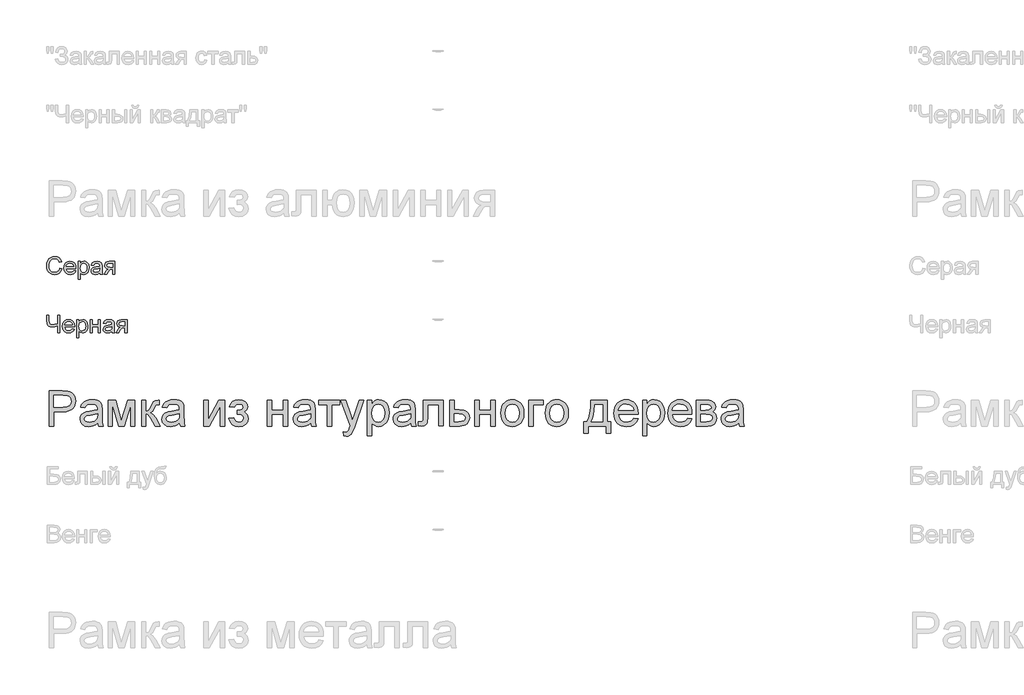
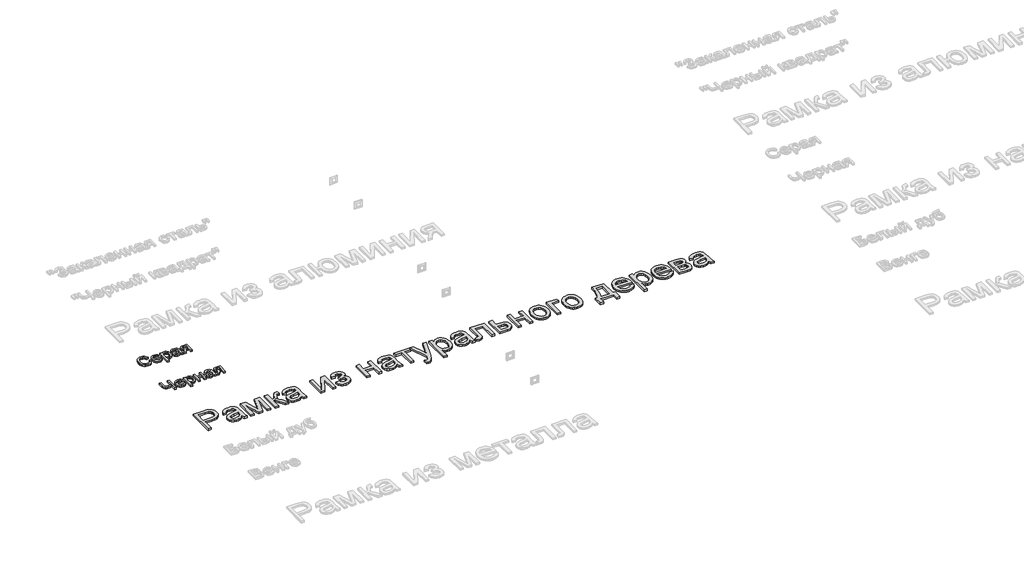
# One storey, part 111 of 168: 3 proxies.
"""IFC4 building model written with IfcOpenShell, lengths in millimetres."""

from ifc_helpers import new_model, si_unit, origin, origin_with_axes, place, context, project, spatial, polyline, outline, extrude, element, save

model = new_model("IFC4")

# Units and contexts
model_context = context("Model", 3, world=origin())
ifc_project = project(units=[si_unit("LENGTHUNIT", "METRE", prefix="MILLI")], contexts=[model_context])

# Site, building, storey
site = spatial("IfcSite", under=ifc_project)
building = spatial("IfcBuilding", under=site)
storey = spatial("IfcBuildingStorey", under=building, Name="Этаж 01", Elevation=0.0)

# Proxies
placement = place(None, origin())
element("IfcBuildingElementProxy", 1, Name="300 мм Arial 2", ObjectType="300 мм Arial 2", at=placement, inside=storey, context=model_context, shape_type="SweptSolid", body=[
    extrude(outline(polyline([(32899.0945017, -10648.4056816), (32899.0945017, -10347.0367511), (33010.7834754, -10347.0367511), (33055.8122316, -10349.9062307), (33075.8893915, -10355.2681108), (33092.4164901, -10363.9961111), (33105.7246213, -10376.4857048), (33116.1448788, -10393.1323651), (33122.8771193, -10412.7680666), (33125.1211995, -10434.224784), (33123.6059855, -10452.7246498), (33119.0603436, -10469.7437906), (33111.4842738, -10485.2822064), (33100.877776, -10499.3398971), (33086.3165468, -10510.9925593), (33066.8762826, -10519.3158895), (33042.5569835, -10524.3098875), (33013.3586494, -10525.9745536), (32936.765618, -10525.9745536), (32936.765618, -10648.4056816), (32899.0945017, -10648.4056816)]), holes=[polyline([(32936.765618, -10488.3034373), (33015.5659413, -10488.3034373), (33048.9696265, -10484.8453465), (33071.0425462, -10474.4710742), (33083.3481989, -10457.824414), (33087.4500832, -10435.5491592), (33085.0312591, -10418.6265874), (33077.7747867, -10404.352766), (33066.581977, -10393.6106117), (33052.3541408, -10387.2830414), (33014.6830245, -10384.7078674), (32936.765618, -10384.7078674), (32936.765618, -10488.3034373)])]), origin_with_axes(), (0.0, 0.0, 1.0), 20.0),
    extrude(outline(polyline([(33313.476781, -10620.1523443), (33295.4781544, -10635.584994), (33276.9460989, -10645.6833548), (33257.4575502, -10651.256767), (33236.589444, -10653.1145711), (33205.1079423, -10648.6448049), (33181.8853914, -10635.2355061), (33167.5655847, -10614.8732377), (33162.7923158, -10589.5445623), (33164.5949376, -10573.9279716), (33170.0028029, -10559.7461207), (33178.3445271, -10547.6060149), (33188.9487257, -10538.1146594), (33215.3258647, -10525.7538244), (33247.9202095, -10520.0884417), (33286.4374544, -10514.1287533), (33313.2560518, -10507.1389954), (33313.476781, -10498.7512859), (33310.883213, -10481.9390788), (33303.1025088, -10470.9394071), (33285.7016904, -10462.7724268), (33261.4582669, -10460.0501), (33239.0174652, -10461.8619189), (33223.3456922, -10467.2973753), (33212.6587202, -10477.3497509), (33205.1723216, -10493.0123268), (33167.5012053, -10488.3034373), (33174.0403078, -10467.7020455), (33183.7983777, -10451.5152378), (33197.685923, -10439.1360086), (33216.6134517, -10429.9573528), (33239.7624262, -10424.273576), (33266.3143092, -10422.3789837), (33291.7809404, -10424.0528468), (33311.9684648, -10429.074436), (33327.1895824, -10436.625214), (33337.7569927, -10445.8866432), (33344.7651447, -10457.3369703), (33349.3084874, -10471.4544419), (33351.1478973, -10504.4166687), (33351.1478973, -10551.2848348), (33353.0608837, -10616.7310418), (33360.5656764, -10648.4056816), (33322.8945601, -10648.4056816), (33313.476781, -10620.1523443)]), holes=[polyline([(33313.476781, -10544.8101117), (33252.7026754, -10556.3616064), (33220.2922716, -10562.4684475), (33205.61378, -10572.4012614), (33200.4634321, -10586.895812), (33203.2685323, -10598.0978187), (33211.683833, -10607.2764745), (33225.525393, -10613.4017097), (33244.6092715, -10615.4434548), (33264.8427813, -10613.1901776), (33282.7218462, -10606.4303459), (33297.2163968, -10596.4699409), (33307.2963635, -10584.6149436), (33311.7661297, -10572.4012614), (33313.2560518, -10555.4786896), (33313.476781, -10544.8101117)])]), origin_with_axes(), (0.0, 0.0, 1.0), 20.0),
    extrude(outline(polyline([(33402.9456823, -10427.0878733), (33467.7664898, -10427.0878733), (33517.7248647, -10604.2598421), (33571.5827888, -10427.0878733), (33633.6812696, -10427.0878733), (33633.6812696, -10648.4056816), (33596.0101533, -10648.4056816), (33596.0101533, -10470.2036431), (33541.8579236, -10648.4056816), (33492.4145835, -10648.4056816), (33440.6167986, -10461.6687808), (33440.6167986, -10648.4056816), (33402.9456823, -10648.4056816), (33402.9456823, -10427.0878733)])), origin_with_axes(), (0.0, 0.0, 1.0), 20.0),
    extrude(outline(polyline([(33690.1879441, -10427.0878733), (33727.8590604, -10427.0878733), (33727.8590604, -10521.265664), (33743.1813455, -10519.5734069), (33753.0957653, -10514.4966353), (33761.8697508, -10501.2528835), (33773.7707334, -10475.0596854), (33790.9508226, -10441.0306009), (33806.1075608, -10429.9573528), (33833.6619222, -10427.0878733), (33840.8724093, -10427.0878733), (33840.8724093, -10464.9797188), (33830.7188662, -10464.7589896), (33812.3247665, -10468.7321151), (33799.3753203, -10493.5273616), (33784.1817939, -10520.345959), (33762.8814263, -10533.4793463), (33774.8191971, -10538.7814455), (33786.6466032, -10548.1394438), (33809.9703217, -10579.0231373), (33850.2901884, -10648.4056816), (33807.4687241, -10648.4056816), (33767.9581979, -10580.4946653), (33748.0925701, -10551.7630814), (33738.8035497, -10546.5483542), (33727.8590604, -10544.8101117), (33727.8590604, -10648.4056816), (33690.1879441, -10648.4056816), (33690.1879441, -10427.0878733)])), origin_with_axes(), (0.0, 0.0, 1.0), 20.0),
    extrude(outline(polyline([(34015.1013222, -10620.1523443), (33997.1026956, -10635.584994), (33978.5706401, -10645.6833548), (33959.0820914, -10651.256767), (33938.2139852, -10653.1145711), (33906.7324835, -10648.6448049), (33883.5099326, -10635.2355061), (33869.1901259, -10614.8732377), (33864.416857, -10589.5445623), (33866.2194788, -10573.9279716), (33871.6273441, -10559.7461207), (33879.9690683, -10547.6060149), (33890.5732669, -10538.1146594), (33916.9504059, -10525.7538244), (33949.5447507, -10520.0884417), (33988.0619956, -10514.1287533), (34014.880593, -10507.1389954), (34015.1013222, -10498.7512859), (34012.5077542, -10481.9390788), (34004.72705, -10470.9394071), (33987.3262316, -10462.7724268), (33963.0828081, -10460.0501), (33940.6420064, -10461.8619189), (33924.9702334, -10467.2973753), (33914.2832614, -10477.3497509), (33906.7968628, -10493.0123268), (33869.1257465, -10488.3034373), (33875.664849, -10467.7020455), (33885.4229189, -10451.5152378), (33899.3104642, -10439.1360086), (33918.2379929, -10429.9573528), (33941.3869674, -10424.273576), (33967.9388504, -10422.3789837), (33993.4054816, -10424.0528468), (34013.593006, -10429.074436), (34028.8141236, -10436.625214), (34039.3815339, -10445.8866432), (34046.3896859, -10457.3369703), (34050.9330286, -10471.4544419), (34052.7724385, -10504.4166687), (34052.7724385, -10551.2848348), (34054.6854249, -10616.7310418), (34062.1902176, -10648.4056816), (34024.5191013, -10648.4056816), (34015.1013222, -10620.1523443)]), holes=[polyline([(34015.1013222, -10544.8101117), (33954.3272166, -10556.3616064), (33921.9168128, -10562.4684475), (33907.2383212, -10572.4012614), (33902.0879733, -10586.895812), (33904.8930735, -10598.0978187), (33913.3083742, -10607.2764745), (33927.1499342, -10613.4017097), (33946.2338127, -10615.4434548), (33966.4673225, -10613.1901776), (33984.3463874, -10606.4303459), (33998.840938, -10596.4699409), (34008.9209047, -10584.6149436), (34013.3906709, -10572.4012614), (34014.880593, -10555.4786896), (34015.1013222, -10544.8101117)])]), origin_with_axes(), (0.0, 0.0, 1.0), 20.0),
    extrude(outline(polyline([(34222.2924619, -10427.0878733), (34259.9635782, -10427.0878733), (34259.9635782, -10595.8721327), (34352.5226882, -10427.0878733), (34401.2302644, -10427.0878733), (34401.2302644, -10648.4056816), (34363.5591481, -10648.4056816), (34363.5591481, -10480.6514918), (34271.5886493, -10648.4056816), (34222.2924619, -10648.4056816), (34222.2924619, -10427.0878733)])), origin_with_axes(), (0.0, 0.0, 1.0), 20.0),
    extrude(outline(polyline([(34509.5347237, -10549.5190013), (34509.5347237, -10511.847885), (34539.259589, -10510.376357), (34554.2691744, -10502.5404705), (34559.5666751, -10495.1920276), (34561.3325087, -10486.1697217), (34558.9688668, -10475.4551586), (34551.8779414, -10467.1502225), (34541.0530137, -10461.8251307), (34527.4873651, -10460.0501), (34513.7745637, -10461.8159336), (34502.2874484, -10467.1134343), (34493.0260192, -10475.9426022), (34485.9902761, -10488.3034373), (34443.6102702, -10483.5945477), (34454.8490652, -10456.8127385), (34471.9371838, -10437.6828747), (34494.8746262, -10426.2049565), (34523.6613924, -10422.3789837), (34555.1520911, -10427.041888), (34578.9908444, -10441.0306009), (34594.0004298, -10461.4940369), (34599.003625, -10485.5811105), (34597.2239958, -10497.9419455), (34591.8851084, -10508.9784054), (34582.9869626, -10518.6904901), (34570.5295585, -10527.0781996), (34585.0700944, -10537.5444423), (34595.4351696, -10550.5490709), (34601.6431783, -10566.1288733), (34603.7125145, -10584.320638), (34598.460999, -10612.0497434), (34582.7064526, -10634.0214956), (34557.515733, -10648.3413022), (34523.955698, -10653.1145711), (34491.1314269, -10648.6999872), (34466.0142837, -10635.4562353), (34448.6042683, -10613.3833156), (34438.9013807, -10582.481228), (34481.2813865, -10577.7723385), (34487.6273509, -10593.7016289), (34498.2775347, -10605.5842173), (34511.9995331, -10612.9786454), (34527.5609415, -10615.4434548), (34542.7176797, -10613.079813), (34555.0785147, -10605.9888875), (34563.3006773, -10595.2191421), (34566.0413982, -10581.8190404), (34564.339944, -10571.2056449), (34559.2355813, -10562.0269891), (34544.7410307, -10551.4319876), (34516.8923636, -10549.2982721), (34509.5347237, -10549.5190013)])), origin_with_axes(), (0.0, 0.0, 1.0), 20.0),
    extrude(outline(polyline([(34768.5236483, -10427.0878733), (34806.1947647, -10427.0878733), (34806.1947647, -10511.847885), (34905.081445, -10511.847885), (34905.081445, -10427.0878733), (34942.7525613, -10427.0878733), (34942.7525613, -10648.4056816), (34905.081445, -10648.4056816), (34905.081445, -10549.5190013), (34806.1947647, -10549.5190013), (34806.1947647, -10648.4056816), (34768.5236483, -10648.4056816), (34768.5236483, -10427.0878733)])), origin_with_axes(), (0.0, 0.0, 1.0), 20.0),
    extrude(outline(polyline([(35140.5259219, -10620.1523443), (35122.5272953, -10635.584994), (35103.9952397, -10645.6833548), (35084.5066911, -10651.256767), (35063.6385849, -10653.1145711), (35032.1570831, -10648.6448049), (35008.9345322, -10635.2355061), (34994.6147255, -10614.8732377), (34989.8414566, -10589.5445623), (34991.6440784, -10573.9279716), (34997.0519438, -10559.7461207), (35005.393668, -10547.6060149), (35015.9978665, -10538.1146594), (35042.3750056, -10525.7538244), (35074.9693503, -10520.0884417), (35113.4865952, -10514.1287533), (35140.3051927, -10507.1389954), (35140.5259219, -10498.7512859), (35137.9323538, -10481.9390788), (35130.1516496, -10470.9394071), (35112.7508312, -10462.7724268), (35088.5074078, -10460.0501), (35066.066606, -10461.8619189), (35050.3948331, -10467.2973753), (35039.7078611, -10477.3497509), (35032.2214625, -10493.0123268), (34994.5503462, -10488.3034373), (35001.0894486, -10467.7020455), (35010.8475186, -10451.5152378), (35024.7350639, -10439.1360086), (35043.6625925, -10429.9573528), (35066.8115671, -10424.273576), (35093.3634501, -10422.3789837), (35118.8300812, -10424.0528468), (35139.0176057, -10429.074436), (35154.2387232, -10436.625214), (35164.8061336, -10445.8866432), (35171.8142856, -10457.3369703), (35176.3576282, -10471.4544419), (35178.1970382, -10504.4166687), (35178.1970382, -10551.2848348), (35180.1100246, -10616.7310418), (35187.6148173, -10648.4056816), (35149.9437009, -10648.4056816), (35140.5259219, -10620.1523443)]), holes=[polyline([(35140.5259219, -10544.8101117), (35079.7518163, -10556.3616064), (35047.3414125, -10562.4684475), (35032.6629209, -10572.4012614), (35027.512573, -10586.895812), (35030.3176732, -10598.0978187), (35038.7329738, -10607.2764745), (35052.5745339, -10613.4017097), (35071.6584124, -10615.4434548), (35091.8919221, -10613.1901776), (35109.7709871, -10606.4303459), (35124.2655377, -10596.4699409), (35134.3455044, -10584.6149436), (35138.8152706, -10572.4012614), (35140.3051927, -10555.4786896), (35140.5259219, -10544.8101117)])]), origin_with_axes(), (0.0, 0.0, 1.0), 20.0),
    extrude(outline(polyline([(35211.1592649, -10427.0878733), (35390.0970674, -10427.0878733), (35390.0970674, -10464.7589896), (35319.4637243, -10464.7589896), (35319.4637243, -10648.4056816), (35281.792608, -10648.4056816), (35281.792608, -10464.7589896), (35211.1592649, -10464.7589896), (35211.1592649, -10427.0878733)])), origin_with_axes(), (0.0, 0.0, 1.0), 20.0),
    extrude(outline(polyline([(35423.0592942, -10733.1656933), (35418.3504046, -10696.8925285), (35437.4802684, -10700.2034665), (35455.3593333, -10696.0463999), (35466.3222168, -10684.4581171), (35476.6229127, -10656.7198147), (35479.5659686, -10647.5963412), (35399.5148465, -10427.0878733), (35439.246102, -10427.0878733), (35481.6996842, -10549.9604597), (35496.4885404, -10599.1094942), (35511.2773966, -10555.6994188), (35554.9082012, -10427.0878733), (35594.3451511, -10427.0878733), (35517.3106613, -10653.7031823), (35497.2978808, -10702.8522169), (35487.0523672, -10718.5423839), (35475.4456903, -10729.4132969), (35461.9628152, -10735.7592613), (35446.0887071, -10737.8745828), (35423.0592942, -10733.1656933)])), origin_with_axes(), (0.0, 0.0, 1.0), 20.0),
    extrude(outline(polyline([(35625.5415443, -10733.1656933), (35625.5415443, -10427.0878733), (35663.2126606, -10427.0878733), (35663.2126606, -10464.0232256), (35675.4999193, -10445.8038698), (35689.2587059, -10432.7900442), (35705.2983609, -10424.9817488), (35724.4282246, -10422.3789837), (35749.9040528, -10426.0210155), (35772.1793076, -10436.9471107), (35790.31589, -10454.4950819), (35803.3757008, -10478.0027414), (35811.2667696, -10505.7594379), (35813.8971258, -10536.0545202), (35810.9264787, -10568.271786), (35802.0145374, -10597.0861432), (35787.4464104, -10621.0352611), (35767.5072063, -10638.6568087), (35744.2846553, -10649.5001305), (35719.8664879, -10653.1145711), (35702.548443, -10650.695747), (35687.0882021, -10643.4392746), (35673.8536473, -10632.4855882), (35663.2126606, -10618.975122), (35663.2126606, -10733.1656933), (35625.5415443, -10733.1656933)]), holes=[polyline([(35663.2126606, -10539.512611), (35667.2869537, -10573.2841782), (35679.509833, -10596.9022022), (35697.5452478, -10610.8081417), (35719.0571475, -10615.4434548), (35740.918535, -10610.6425948), (35759.4138024, -10596.2400147), (35772.0229577, -10571.7574679), (35776.2260095, -10536.7167078), (35772.1241253, -10503.1290817), (35759.8184726, -10479.1799638), (35741.8106489, -10464.832566), (35720.6022519, -10460.0501), (35699.3110814, -10465.1360686), (35680.613479, -10480.3939744), (35667.5628652, -10505.3455707), (35663.2126606, -10539.512611)])]), origin_with_axes(), (0.0, 0.0, 1.0), 20.0),
    extrude(outline(polyline([(35997.5438178, -10620.1523443), (35979.5451912, -10635.584994), (35961.0131357, -10645.6833548), (35941.524587, -10651.256767), (35920.6564808, -10653.1145711), (35889.1749791, -10648.6448049), (35865.9524282, -10635.2355061), (35851.6326215, -10614.8732377), (35846.8593526, -10589.5445623), (35848.6619744, -10573.9279716), (35854.0698397, -10559.7461207), (35862.411564, -10547.6060149), (35873.0157625, -10538.1146594), (35899.3929015, -10525.7538244), (35931.9872463, -10520.0884417), (35970.5044912, -10514.1287533), (35997.3230886, -10507.1389954), (35997.5438178, -10498.7512859), (35994.9502498, -10481.9390788), (35987.1695456, -10470.9394071), (35969.7687272, -10462.7724268), (35945.5253037, -10460.0501), (35923.084502, -10461.8619189), (35907.412729, -10467.2973753), (35896.7257571, -10477.3497509), (35889.2393585, -10493.0123268), (35851.5682421, -10488.3034373), (35858.1073446, -10467.7020455), (35867.8654145, -10451.5152378), (35881.7529599, -10439.1360086), (35900.6804885, -10429.9573528), (35923.8294631, -10424.273576), (35950.3813461, -10422.3789837), (35975.8479772, -10424.0528468), (35996.0355017, -10429.074436), (36011.2566192, -10436.625214), (36021.8240295, -10445.8866432), (36028.8321815, -10457.3369703), (36033.3755242, -10471.4544419), (36035.2149341, -10504.4166687), (36035.2149341, -10551.2848348), (36037.1279205, -10616.7310418), (36044.6327132, -10648.4056816), (36006.9615969, -10648.4056816), (35997.5438178, -10620.1523443)]), holes=[polyline([(35997.5438178, -10544.8101117), (35936.7697122, -10556.3616064), (35904.3593085, -10562.4684475), (35889.6808168, -10572.4012614), (35884.5304689, -10586.895812), (35887.3355691, -10598.0978187), (35895.7508698, -10607.2764745), (35909.5924298, -10613.4017097), (35928.6763083, -10615.4434548), (35948.9098181, -10613.1901776), (35966.788883, -10606.4303459), (35981.2834336, -10596.4699409), (35991.3634003, -10584.6149436), (35995.8331666, -10572.4012614), (35997.3230886, -10555.4786896), (35997.5438178, -10544.8101117)])]), origin_with_axes(), (0.0, 0.0, 1.0), 20.0),
    extrude(outline(polyline([(36105.8482772, -10427.0878733), (36275.3683006, -10427.0878733), (36275.3683006, -10648.1849524), (36237.6971843, -10648.1849524), (36237.6971843, -10464.7589896), (36143.5193935, -10464.7589896), (36143.5193935, -10570.3411222), (36140.9810078, -10619.0486984), (36136.226133, -10630.0759612), (36127.0382801, -10639.6133019), (36113.0955525, -10646.2075866), (36094.0760534, -10648.4056816), (36063.4682714, -10646.4926952), (36063.4682714, -10610.7345653), (36080.3172667, -10610.7345653), (36097.3502031, -10608.4169087), (36104.15602, -10601.0592688), (36105.8482772, -10568.2074066), (36105.8482772, -10427.0878733)])), origin_with_axes(), (0.0, 0.0, 1.0), 20.0),
    extrude(outline(polyline([(36331.8749751, -10427.0878733), (36369.5460914, -10427.0878733), (36369.5460914, -10507.1389954), (36412.9561668, -10507.1389954), (36450.5904949, -10511.857082), (36465.738036, -10517.7546902), (36478.4391619, -10526.0113418), (36488.4823404, -10536.3419281), (36495.6560393, -10548.4613405), (36501.3949984, -10578.0666441), (36496.5113649, -10605.0231973), (36481.8604645, -10627.7675016), (36470.6285673, -10636.7967054), (36456.4674098, -10643.2461366), (36419.3573135, -10648.4056816), (36331.8749751, -10648.4056816), (36331.8749751, -10427.0878733)]), holes=[polyline([(36369.5460914, -10610.7345653), (36404.7156101, -10610.7345653), (36432.0032571, -10608.7571995), (36450.1490365, -10602.8251024), (36460.3301707, -10592.6991504), (36463.7238821, -10578.1402205), (36461.2130875, -10565.8345678), (36453.6807037, -10554.9636548), (36437.5398811, -10547.3484975), (36409.2037704, -10544.8101117), (36369.5460914, -10544.8101117), (36369.5460914, -10610.7345653)])]), origin_with_axes(), (0.0, 0.0, 1.0), 20.0),
    extrude(outline(polyline([(36548.4838938, -10427.0878733), (36586.1550101, -10427.0878733), (36586.1550101, -10511.847885), (36685.0416904, -10511.847885), (36685.0416904, -10427.0878733), (36722.7128067, -10427.0878733), (36722.7128067, -10648.4056816), (36685.0416904, -10648.4056816), (36685.0416904, -10549.5190013), (36586.1550101, -10549.5190013), (36586.1550101, -10648.4056816), (36548.4838938, -10648.4056816), (36548.4838938, -10427.0878733)])), origin_with_axes(), (0.0, 0.0, 1.0), 20.0),
    extrude(outline(polyline([(36769.8017021, -10537.7467774), (36771.8388487, -10509.0841715), (36777.9502883, -10484.385494), (36788.136021, -10463.6507451), (36802.3960469, -10446.8799246), (36816.7526417, -10436.160763), (36832.5991587, -10428.504219), (36849.9355977, -10423.9102925), (36868.7619588, -10422.3789837), (36889.5449923, -10424.2436856), (36908.3368644, -10429.8377912), (36925.1375753, -10439.1613005), (36939.9471249, -10452.2142135), (36952.0343477, -10468.5550719), (36960.6680783, -10487.7424172), (36965.8483166, -10509.7762495), (36967.5750627, -10534.6565687), (36964.5216422, -10572.7139611), (36955.3613805, -10601.6846682), (36940.3609921, -10623.3805088), (36919.7871915, -10639.6133019), (36895.35063, -10649.7392538), (36868.7619588, -10653.1145711), (36847.6754227, -10651.256767), (36828.7088066, -10645.6833548), (36811.8621105, -10636.3943344), (36797.1353344, -10623.3897059), (36785.1768702, -10606.8901984), (36776.6351102, -10587.1165412), (36771.5100541, -10564.0687342), (36769.8017021, -10537.7467774)]), holes=[polyline([(36807.4728184, -10537.673201), (36811.8322201, -10571.7666649), (36824.910425, -10596.0560737), (36844.5921117, -10610.5966095), (36868.7619588, -10615.4434548), (36892.8214413, -10610.5690184), (36912.4663398, -10595.9457091), (36925.5445448, -10571.3344036), (36929.9039464, -10536.4959786), (36925.5169536, -10503.3957961), (36912.3559752, -10479.4374812), (36892.6834855, -10464.8969453), (36868.7619588, -10460.0501), (36844.5921117, -10464.8785512), (36824.910425, -10479.3639048), (36811.8322201, -10503.5981312), (36807.4728184, -10537.673201)])]), origin_with_axes(), (0.0, 0.0, 1.0), 20.0),
    extrude(outline(polyline([(37009.9550686, -10427.0878733), (37132.3861966, -10427.0878733), (37132.3861966, -10464.7589896), (37047.6261849, -10464.7589896), (37047.6261849, -10648.4056816), (37009.9550686, -10648.4056816), (37009.9550686, -10427.0878733)])), origin_with_axes(), (0.0, 0.0, 1.0), 20.0),
    extrude(outline(polyline([(37151.2217547, -10537.7467774), (37153.2589013, -10509.0841715), (37159.3703409, -10484.385494), (37169.5560736, -10463.6507451), (37183.8160995, -10446.8799246), (37198.1726943, -10436.160763), (37214.0192113, -10428.504219), (37231.3556503, -10423.9102925), (37250.1820114, -10422.3789837), (37270.9650449, -10424.2436856), (37289.756917, -10429.8377912), (37306.5576279, -10439.1613005), (37321.3671775, -10452.2142135), (37333.4544003, -10468.5550719), (37342.0881309, -10487.7424172), (37347.2683692, -10509.7762495), (37348.9951153, -10534.6565687), (37345.9416948, -10572.7139611), (37336.7814331, -10601.6846682), (37321.7810447, -10623.3805088), (37301.2072441, -10639.6133019), (37276.7706826, -10649.7392538), (37250.1820114, -10653.1145711), (37229.0954753, -10651.256767), (37210.1288592, -10645.6833548), (37193.2821631, -10636.3943344), (37178.555387, -10623.3897059), (37166.5969228, -10606.8901984), (37158.0551628, -10587.1165412), (37152.9301067, -10564.0687342), (37151.2217547, -10537.7467774)]), holes=[polyline([(37188.892871, -10537.673201), (37193.2522727, -10571.7666649), (37206.3304776, -10596.0560737), (37226.0121643, -10610.5966095), (37250.1820114, -10615.4434548), (37274.2414939, -10610.5690184), (37293.8863924, -10595.9457091), (37306.9645974, -10571.3344036), (37311.323999, -10536.4959786), (37306.9370062, -10503.3957961), (37293.7760278, -10479.4374812), (37274.1035381, -10464.8969453), (37250.1820114, -10460.0501), (37226.0121643, -10464.8785512), (37206.3304776, -10479.3639048), (37193.2522727, -10503.5981312), (37188.892871, -10537.673201)])]), origin_with_axes(), (0.0, 0.0, 1.0), 20.0),
    extrude(outline(polyline([(37542.0595864, -10427.0878733), (37683.3262725, -10427.0878733), (37683.3262725, -10610.7345653), (37711.5796098, -10610.7345653), (37711.5796098, -10709.6212456), (37673.9084935, -10709.6212456), (37673.9084935, -10648.4056816), (37518.5151387, -10648.4056816), (37518.5151387, -10709.6212456), (37480.8440224, -10709.6212456), (37480.8440224, -10610.7345653), (37504.3884701, -10610.7345653), (37521.5041799, -10579.8048865), (37533.4879359, -10538.8872116), (37540.3397381, -10487.9815405), (37542.0595864, -10427.0878733)]), holes=[polyline([(37575.0218132, -10464.7589896), (37571.9316044, -10510.8821947), (37566.1926453, -10550.5858591), (37557.8049358, -10583.8699826), (37546.7684759, -10610.7345653), (37645.6551562, -10610.7345653), (37645.6551562, -10464.7589896), (37575.0218132, -10464.7589896)])]), origin_with_axes(), (0.0, 0.0, 1.0), 20.0),
    extrude(outline(polyline([(37908.911512, -10582.481228), (37945.8468643, -10587.1901176), (37932.5387331, -10615.0203905), (37911.3027449, -10635.8241173), (37882.6171464, -10648.7919577), (37846.960184, -10653.1145711), (37823.5858817, -10651.2498692), (37802.7591623, -10645.6557637), (37784.4800256, -10636.3322543), (37768.7484718, -10623.2793413), (37756.0979297, -10606.860308), (37747.0618282, -10587.4384379), (37741.6401673, -10565.013731), (37739.832947, -10539.5861874), (37741.6585614, -10513.2964203), (37747.1354046, -10490.1244531), (37756.2634766, -10470.0702859), (37769.0427774, -10453.1339185), (37784.7329445, -10439.6786346), (37802.5936154, -10430.0677174), (37822.62479, -10424.3011672), (37844.8264684, -10422.3789837), (37866.3130762, -10424.2965686), (37885.7441433, -10430.0493233), (37903.1196698, -10439.6372478), (37918.4396557, -10453.0603421), (37930.9453442, -10469.9599213), (37939.8779789, -10489.9773003), (37945.2375597, -10513.1124793), (37947.0240867, -10539.3654582), (37946.8033575, -10549.5190013), (37777.5040633, -10549.5190013), (37784.0247717, -10577.7171562), (37799.1723128, -10598.4473066), (37821.0337004, -10611.1944178), (37847.695948, -10615.4434548), (37867.7455167, -10613.4752861), (37884.6313003, -10607.5707801), (37898.3532987, -10597.3620547), (37908.911512, -10582.481228)]), holes=[polyline([(37777.5040633, -10511.847885), (37909.3529704, -10511.847885), (37904.2578047, -10491.945469), (37894.2698086, -10477.7084358), (37872.3072535, -10464.464684), (37844.6793156, -10460.0501), (37819.2862609, -10463.5725701), (37798.289396, -10474.1399805), (37783.6936779, -10490.6118968), (37777.5040633, -10511.847885)])]), origin_with_axes(), (0.0, 0.0, 1.0), 20.0),
    extrude(outline(polyline([(37984.695203, -10733.1656933), (37984.695203, -10427.0878733), (38022.3663193, -10427.0878733), (38022.3663193, -10464.0232256), (38034.6535779, -10445.8038698), (38048.4123645, -10432.7900442), (38064.4520195, -10424.9817488), (38083.5818833, -10422.3789837), (38109.0577115, -10426.0210155), (38131.3329663, -10436.9471107), (38149.4695486, -10454.4950819), (38162.5293595, -10478.0027414), (38170.4204282, -10505.7594379), (38173.0507845, -10536.0545202), (38170.0801374, -10568.271786), (38161.1681961, -10597.0861432), (38146.6000691, -10621.0352611), (38126.6608649, -10638.6568087), (38103.438314, -10649.5001305), (38079.0201465, -10653.1145711), (38061.7021016, -10650.695747), (38046.2418608, -10643.4392746), (38033.007306, -10632.4855882), (38022.3663193, -10618.975122), (38022.3663193, -10733.1656933), (37984.695203, -10733.1656933)]), holes=[polyline([(38022.3663193, -10539.512611), (38026.4406124, -10573.2841782), (38038.6634917, -10596.9022022), (38056.6989065, -10610.8081417), (38078.2108062, -10615.4434548), (38100.0721937, -10610.6425948), (38118.567461, -10596.2400147), (38131.1766164, -10571.7574679), (38135.3796682, -10536.7167078), (38131.277784, -10503.1290817), (38118.9721312, -10479.1799638), (38100.9643076, -10464.832566), (38079.7559105, -10460.0501), (38058.4647401, -10465.1360686), (38039.7671377, -10480.3939744), (38026.7165239, -10505.3455707), (38022.3663193, -10539.512611)])]), origin_with_axes(), (0.0, 0.0, 1.0), 20.0),
    extrude(outline(polyline([(38370.3826867, -10582.481228), (38407.318039, -10587.1901176), (38394.0099079, -10615.0203905), (38372.7739197, -10635.8241173), (38344.0883211, -10648.7919577), (38308.4313587, -10653.1145711), (38285.0570565, -10651.2498692), (38264.230337, -10645.6557637), (38245.9512004, -10636.3322543), (38230.2196466, -10623.2793413), (38217.5691045, -10606.860308), (38208.5330029, -10587.4384379), (38203.111342, -10565.013731), (38201.3041217, -10539.5861874), (38203.1297361, -10513.2964203), (38208.6065793, -10490.1244531), (38217.7346514, -10470.0702859), (38230.5139522, -10453.1339185), (38246.2041193, -10439.6786346), (38264.0647901, -10430.0677174), (38284.0959648, -10424.3011672), (38306.2976432, -10422.3789837), (38327.7842509, -10424.2965686), (38347.2153181, -10430.0493233), (38364.5908446, -10439.6372478), (38379.9108304, -10453.0603421), (38392.416519, -10469.9599213), (38401.3491537, -10489.9773003), (38406.7087345, -10513.1124793), (38408.4952614, -10539.3654582), (38408.2745322, -10549.5190013), (38238.975238, -10549.5190013), (38245.4959464, -10577.7171562), (38260.6434876, -10598.4473066), (38282.5048751, -10611.1944178), (38309.1671227, -10615.4434548), (38329.2166915, -10613.4752861), (38346.102475, -10607.5707801), (38359.8244735, -10597.3620547), (38370.3826867, -10582.481228)]), holes=[polyline([(38238.975238, -10511.847885), (38370.8241451, -10511.847885), (38365.7289795, -10491.945469), (38355.7409833, -10477.7084358), (38333.7784282, -10464.464684), (38306.1504904, -10460.0501), (38280.7574357, -10463.5725701), (38259.7605708, -10474.1399805), (38245.1648526, -10490.6118968), (38238.975238, -10511.847885)])]), origin_with_axes(), (0.0, 0.0, 1.0), 20.0),
    extrude(outline(polyline([(38446.1663777, -10427.0878733), (38529.1605558, -10427.0878733), (38555.8411975, -10428.3478691), (38574.6675586, -10432.1278566), (38588.5183158, -10439.2647673), (38600.2721455, -10450.5955328), (38608.3011701, -10465.3567978), (38610.9775116, -10482.7852073), (38609.3588308, -10496.8291025), (38604.5027885, -10508.9416172), (38596.3909905, -10519.1779337), (38585.0050427, -10527.5932344), (38598.9477703, -10535.4199238), (38610.315324, -10548.0106851), (38617.875299, -10564.3722368), (38620.3952906, -10583.5112976), (38614.012538, -10612.2244873), (38598.8374057, -10632.439603), (38574.8147114, -10644.4141619), (38541.8892729, -10648.4056816), (38446.1663777, -10648.4056816), (38446.1663777, -10427.0878733)]), holes=[polyline([(38483.837494, -10511.847885), (38521.0671519, -10511.847885), (38551.7852985, -10509.9348986), (38566.7213076, -10502.2829531), (38571.6601233, -10495.9553828), (38573.3063953, -10488.4505901), (38570.4185216, -10477.2117951), (38561.7549006, -10469.9829139), (38546.1015217, -10466.0649707), (38522.2443743, -10464.7589896), (38483.837494, -10464.7589896), (38483.837494, -10511.847885)]), polyline([(38483.837494, -10610.7345653), (38530.0434726, -10610.7345653), (38555.2249952, -10609.033111), (38571.0255269, -10603.9287484), (38579.5052069, -10594.648925), (38582.7241743, -10580.4210889), (38581.1146906, -10570.9941127), (38576.2862394, -10562.2845065), (38568.8734172, -10555.4694925), (38559.5108204, -10551.7262932), (38526.3646527, -10549.5190013), (38483.837494, -10549.5190013), (38483.837494, -10610.7345653)])]), origin_with_axes(), (0.0, 0.0, 1.0), 20.0),
    extrude(outline(polyline([(38808.7508722, -10620.1523443), (38790.7522456, -10635.584994), (38772.2201901, -10645.6833548), (38752.7316414, -10651.256767), (38731.8635352, -10653.1145711), (38700.3820334, -10648.6448049), (38677.1594825, -10635.2355061), (38662.8396758, -10614.8732377), (38658.066407, -10589.5445623), (38659.8690287, -10573.9279716), (38665.2768941, -10559.7461207), (38673.6186183, -10547.6060149), (38684.2228168, -10538.1146594), (38710.5999559, -10525.7538244), (38743.1943006, -10520.0884417), (38781.7115455, -10514.1287533), (38808.530143, -10507.1389954), (38808.7508722, -10498.7512859), (38806.1573041, -10481.9390788), (38798.3765999, -10470.9394071), (38780.9757815, -10462.7724268), (38756.7323581, -10460.0501), (38734.2915564, -10461.8619189), (38718.6197834, -10467.2973753), (38707.9328114, -10477.3497509), (38700.4464128, -10493.0123268), (38662.7752965, -10488.3034373), (38669.314399, -10467.7020455), (38679.0724689, -10451.5152378), (38692.9600142, -10439.1360086), (38711.8875428, -10429.9573528), (38735.0365174, -10424.273576), (38761.5884004, -10422.3789837), (38787.0550315, -10424.0528468), (38807.242556, -10429.074436), (38822.4636735, -10436.625214), (38833.0310839, -10445.8866432), (38840.0392359, -10457.3369703), (38844.5825785, -10471.4544419), (38846.4219885, -10504.4166687), (38846.4219885, -10551.2848348), (38848.3349749, -10616.7310418), (38855.8397676, -10648.4056816), (38818.1686513, -10648.4056816), (38808.7508722, -10620.1523443)]), holes=[polyline([(38808.7508722, -10544.8101117), (38747.9767666, -10556.3616064), (38715.5663628, -10562.4684475), (38700.8878712, -10572.4012614), (38695.7375233, -10586.895812), (38698.5426235, -10598.0978187), (38706.9579241, -10607.2764745), (38720.7994842, -10613.4017097), (38739.8833627, -10615.4434548), (38760.1168724, -10613.1901776), (38777.9959374, -10606.4303459), (38792.490488, -10596.4699409), (38802.5704547, -10584.6149436), (38807.0402209, -10572.4012614), (38808.530143, -10555.4786896), (38808.7508722, -10544.8101117)])]), origin_with_axes(), (0.0, 0.0, 1.0), 20.0),
])
element("IfcBuildingElementProxy", 2, Name="150", ObjectType="150", at=placement, inside=storey, context=model_context, shape_type="SweptSolid", body=[
    extrude(outline(polyline([(32988.5634029, -9294.8420631), (33007.398961, -9299.6981054), (32998.7077489, -9321.6468649), (32985.0685239, -9337.6819214), (32967.1526708, -9347.4905751), (32945.631574, -9350.7601263), (32923.7839821, -9348.2861199), (32906.4337475, -9340.8641007), (32893.1348133, -9328.751586), (32883.4411228, -9312.2060932), (32877.5228212, -9292.7543327), (32875.550054, -9271.9230148), (32877.7803386, -9249.9512626), (32884.4711923, -9230.9777487), (32895.2731274, -9215.6048798), (32909.8366559, -9204.4350628), (32927.1087156, -9197.6338444), (32946.0362442, -9195.3667716), (32966.6882197, -9198.3006305), (32983.7625428, -9207.1022072), (32996.7257847, -9221.2288758), (33005.0445163, -9240.1380104), (32986.2089581, -9244.6261707), (32979.6790527, -9230.8903767), (32970.7579143, -9221.4679991), (32959.3351784, -9216.0187471), (32945.3004803, -9214.2023297), (32929.1228695, -9216.2164837), (32915.8331324, -9222.2589454), (32905.7485672, -9231.6951186), (32899.1864722, -9243.8904067), (32894.3856121, -9271.8862266), (32895.8065563, -9289.2870449), (32900.0693889, -9304.3334185), (32907.3350583, -9316.4505318), (32917.7645129, -9325.063569), (32930.2679022, -9330.2093184), (32943.7553759, -9331.9245682), (32959.4777326, -9329.5885175), (32972.5789302, -9322.5803655), (32982.4703573, -9310.9736886), (32988.5634029, -9294.8420631)])), origin_with_axes(), (0.0, 0.0, 1.0), 20.0),
    extrude(outline(polyline([(33108.4193569, -9315.4434548), (33126.8870331, -9317.7978996), (33120.2329675, -9331.713036), (33109.6149734, -9342.1148995), (33095.2721741, -9348.5988196), (33077.4436929, -9350.7601263), (33055.3431821, -9347.0307226), (33038.3378368, -9335.8425114), (33027.494515, -9317.9220597), (33023.8800744, -9293.9959345), (33027.5313032, -9269.2650674), (33038.4849896, -9250.7698), (33055.2604086, -9239.2366995), (33076.3768351, -9235.3923327), (33096.8356726, -9239.2275025), (33113.1834288, -9250.7330118), (33123.9025904, -9269.191491), (33127.4756443, -9293.8855699), (33127.3652797, -9298.9623414), (33042.7156326, -9298.9623414), (33045.9759868, -9313.0614189), (33053.5497573, -9323.4264941), (33064.4804511, -9329.8000497), (33077.8115749, -9331.9245682), (33096.2792511, -9327.9882308), (33108.4193569, -9315.4434548)]), holes=[polyline([(33042.7156326, -9280.1267833), (33108.6400861, -9280.1267833), (33106.0925033, -9270.1755753), (33101.0985052, -9263.0570587), (33090.1172277, -9256.4351828), (33076.3032587, -9254.2278908), (33063.6067314, -9255.9891259), (33053.1082989, -9261.272831), (33045.8104399, -9269.5087892), (33042.7156326, -9280.1267833)])]), origin_with_axes(), (0.0, 0.0, 1.0), 20.0),
    extrude(outline(polyline([(33146.3112024, -9390.7856874), (33146.3112024, -9237.7467774), (33165.1467606, -9237.7467774), (33165.1467606, -9256.2144536), (33178.1697832, -9240.5978629), (33195.7545426, -9235.3923327), (33208.4924567, -9237.2133485), (33219.6300841, -9242.6763962), (33228.6983752, -9251.4503817), (33235.2282807, -9263.2042115), (33240.4889932, -9292.2301009), (33239.0036696, -9308.3387338), (33234.547699, -9322.7459124), (33227.2636355, -9334.7204713), (33217.2940334, -9343.5312451), (33205.6827579, -9348.952906), (33193.4736742, -9350.7601263), (33177.0845313, -9345.9224781), (33165.1467606, -9333.6904018), (33165.1467606, -9390.7856874), (33146.3112024, -9390.7856874)]), holes=[polyline([(33165.1467606, -9293.9591463), (33167.1839071, -9310.8449299), (33173.2953468, -9322.6539419), (33182.3130542, -9329.6069116), (33193.069004, -9331.9245682), (33203.9996978, -9329.5241382), (33213.2473314, -9322.3228481), (33219.5519091, -9310.0815747), (33221.653435, -9292.5611947), (33219.6024929, -9275.7673816), (33213.4496665, -9263.7928227), (33204.4457547, -9256.6191238), (33193.8415562, -9254.2278908), (33183.195971, -9256.7708751), (33173.8471698, -9264.399828), (33167.3218629, -9276.8756261), (33165.1467606, -9293.9591463)])]), origin_with_axes(), (0.0, 0.0, 1.0), 20.0),
    extrude(outline(polyline([(33332.3123392, -9334.279013), (33314.0469981, -9347.0445182), (33293.8686707, -9350.7601263), (33278.1279198, -9348.5252432), (33266.5166443, -9341.8205939), (33259.356741, -9331.6394596), (33256.9701066, -9318.975122), (33260.5753501, -9304.0759012), (33270.0483115, -9293.2601705), (33283.236881, -9287.079753), (33299.5340534, -9284.2470616), (33332.2019746, -9277.7723385), (33332.3123392, -9273.5784838), (33331.0155551, -9265.1723802), (33327.125203, -9259.6725443), (33318.4247939, -9255.5890542), (33306.3030821, -9254.2278908), (33287.2467948, -9257.8515285), (33278.1601095, -9270.7090042), (33259.3245513, -9268.3545594), (33267.4731375, -9249.9604597), (33283.8806745, -9239.1815172), (33308.7311033, -9235.3923327), (33331.5581811, -9238.7400588), (33344.452445, -9247.1461624), (33350.2281923, -9259.9300617), (33351.1478973, -9276.4111751), (33351.1478973, -9299.8452582), (33352.1043905, -9332.5683617), (33355.8567869, -9348.4056816), (33337.0212287, -9348.4056816), (33332.3123392, -9334.279013)]), holes=[polyline([(33332.3123392, -9296.6078966), (33301.9252864, -9302.383644), (33285.7200845, -9305.4370645), (33278.3808387, -9310.4034715), (33275.8056647, -9317.6507468), (33281.4158651, -9327.841078), (33297.8785844, -9331.9245682), (33316.9348718, -9327.4180137), (33329.2221304, -9316.5103126), (33332.2019746, -9301.9421856), (33332.3123392, -9296.6078966)])]), origin_with_axes(), (0.0, 0.0, 1.0), 20.0),
    extrude(outline(polyline([(33461.8068015, -9237.7467774), (33461.8068015, -9348.4056816), (33442.9712433, -9348.4056816), (33442.9712433, -9306.0256757), (33432.7073357, -9306.0256757), (33418.7278198, -9308.4169087), (33405.5944326, -9324.4933519), (33390.5848472, -9348.4056816), (33368.8062331, -9348.4056816), (33387.7153677, -9318.1657816), (33396.0662889, -9307.3132627), (33403.7550226, -9302.4940086), (33390.8791528, -9298.5484742), (33381.8292557, -9291.0528785), (33376.4765727, -9281.0832765), (33374.692345, -9269.7157228), (33377.1295632, -9256.8214589), (33384.4412179, -9246.6127335), (33396.3697916, -9239.9632664), (33412.6577669, -9237.7467774), (33461.8068015, -9237.7467774)]), holes=[polyline([(33442.9712433, -9256.5823356), (33418.1392087, -9256.5823356), (33405.3139226, -9257.672186), (33398.0344576, -9260.9417372), (33393.5279032, -9271.1504626), (33395.1879707, -9278.32876), (33400.1681732, -9283.3089625), (33423.6942268, -9287.1901176), (33442.9712433, -9287.1901176), (33442.9712433, -9256.5823356)])]), origin_with_axes(), (0.0, 0.0, 1.0), 20.0),
])
element("IfcBuildingElementProxy", 3, Name="150", ObjectType="150", at=placement, inside=storey, context=model_context, shape_type="SweptSolid", body=[
    extrude(outline(polyline([(32988.5634029, -9848.4056816), (32969.7278447, -9848.4056816), (32969.7278447, -9788.0730344), (32944.7486573, -9796.2400147), (32923.0804077, -9798.9623414), (32908.3973176, -9797.0999388), (32895.5444404, -9791.512731), (32885.5840354, -9783.0606422), (32879.5783618, -9772.6035965), (32875.550054, -9742.6028198), (32875.550054, -9697.7212163), (32894.3856121, -9697.7212163), (32894.3856121, -9740.064434), (32896.6480864, -9760.4313009), (32903.4355092, -9772.3828673), (32913.3959142, -9778.1908043), (32925.1773351, -9780.1267833), (32946.909964, -9777.7907326), (32969.7278447, -9770.7825806), (32969.7278447, -9697.7212163), (32988.5634029, -9697.7212163), (32988.5634029, -9848.4056816)])), origin_with_axes(), (0.0, 0.0, 1.0), 20.0),
    extrude(outline(polyline([(33096.6471331, -9815.4434548), (33115.1148092, -9817.7978996), (33108.4607436, -9831.713036), (33097.8427496, -9842.1148995), (33083.4999503, -9848.5988196), (33065.6714691, -9850.7601263), (33043.5709582, -9847.0307226), (33026.565613, -9835.8425114), (33015.7222912, -9817.9220597), (33012.1078506, -9793.9959345), (33015.7590794, -9769.2650674), (33026.7127658, -9750.7698), (33043.4881848, -9739.2366995), (33064.6046113, -9735.3923327), (33085.0634487, -9739.2275025), (33101.4112049, -9750.7330118), (33112.1303665, -9769.191491), (33115.7034204, -9793.8855699), (33115.5930558, -9798.9623414), (33030.9434087, -9798.9623414), (33034.2037629, -9813.0614189), (33041.7775335, -9823.4264941), (33052.7082273, -9829.8000497), (33066.0393511, -9831.9245682), (33084.5070272, -9827.9882308), (33096.6471331, -9815.4434548)]), holes=[polyline([(33030.9434087, -9780.1267833), (33096.8678623, -9780.1267833), (33094.3202794, -9770.1755753), (33089.3262814, -9763.0570587), (33078.3450038, -9756.4351828), (33064.5310349, -9754.2278908), (33051.8345075, -9755.9891259), (33041.3360751, -9761.272831), (33034.038216, -9769.5087892), (33030.9434087, -9780.1267833)])]), origin_with_axes(), (0.0, 0.0, 1.0), 20.0),
    extrude(outline(polyline([(33134.5389786, -9890.7856874), (33134.5389786, -9737.7467774), (33153.3745367, -9737.7467774), (33153.3745367, -9756.2144536), (33166.3975594, -9740.5978629), (33183.9823187, -9735.3923327), (33196.7202328, -9737.2133485), (33207.8578602, -9742.6763962), (33216.9261514, -9751.4503817), (33223.4560568, -9763.2042115), (33228.7167693, -9792.2301009), (33227.2314458, -9808.3387338), (33222.7754751, -9822.7459124), (33215.4914116, -9834.7204713), (33205.5218095, -9843.5312451), (33193.9105341, -9848.952906), (33181.7014504, -9850.7601263), (33165.3123075, -9845.9224781), (33153.3745367, -9833.6904018), (33153.3745367, -9890.7856874), (33134.5389786, -9890.7856874)]), holes=[polyline([(33153.3745367, -9793.9591463), (33155.4116833, -9810.8449299), (33161.5231229, -9822.6539419), (33170.5408303, -9829.6069116), (33181.2967802, -9831.9245682), (33192.2274739, -9829.5241382), (33201.4751076, -9822.3228481), (33207.7796853, -9810.0815747), (33209.8812112, -9792.5611947), (33207.8302691, -9775.7673816), (33201.6774427, -9763.7928227), (33192.6735309, -9756.6191238), (33182.0693323, -9754.2278908), (33171.4237471, -9756.7708751), (33162.0749459, -9764.399828), (33155.549639, -9776.8756261), (33153.3745367, -9793.9591463)])]), origin_with_axes(), (0.0, 0.0, 1.0), 20.0),
    extrude(outline(polyline([(33249.9067723, -9737.7467774), (33268.7423304, -9737.7467774), (33268.7423304, -9780.1267833), (33318.1856706, -9780.1267833), (33318.1856706, -9737.7467774), (33337.0212287, -9737.7467774), (33337.0212287, -9848.4056816), (33318.1856706, -9848.4056816), (33318.1856706, -9798.9623414), (33268.7423304, -9798.9623414), (33268.7423304, -9848.4056816), (33249.9067723, -9848.4056816), (33249.9067723, -9737.7467774)])), origin_with_axes(), (0.0, 0.0, 1.0), 20.0),
    extrude(outline(polyline([(33435.907909, -9834.279013), (33417.642568, -9847.0445182), (33397.4642405, -9850.7601263), (33381.7234897, -9848.5252432), (33370.1122142, -9841.8205939), (33362.9523109, -9831.6394596), (33360.5656764, -9818.975122), (33364.17092, -9804.0759012), (33373.6438813, -9793.2601705), (33386.8324509, -9787.079753), (33403.1296232, -9784.2470616), (33435.7975444, -9777.7723385), (33435.907909, -9773.5784838), (33434.611125, -9765.1723802), (33430.7207729, -9759.6725443), (33422.0203637, -9755.5890542), (33409.898652, -9754.2278908), (33390.8423646, -9757.8515285), (33381.7556793, -9770.7090042), (33362.9201212, -9768.3545594), (33371.0687074, -9749.9604597), (33387.4762444, -9739.1815172), (33412.3266731, -9735.3923327), (33435.1537509, -9738.7400588), (33448.0480149, -9747.1461624), (33453.8237622, -9759.9300617), (33454.7434672, -9776.4111751), (33454.7434672, -9799.8452582), (33455.6999604, -9832.5683617), (33459.4523567, -9848.4056816), (33440.6167986, -9848.4056816), (33435.907909, -9834.279013)]), holes=[polyline([(33435.907909, -9796.6078966), (33405.5208562, -9802.383644), (33389.3156543, -9805.4370645), (33381.9764085, -9810.4034715), (33379.4012346, -9817.6507468), (33385.011435, -9827.841078), (33401.4741543, -9831.9245682), (33420.5304416, -9827.4180137), (33432.8177003, -9816.5103126), (33435.7975444, -9801.9421856), (33435.907909, -9796.6078966)])]), origin_with_axes(), (0.0, 0.0, 1.0), 20.0),
    extrude(outline(polyline([(33565.4023713, -9737.7467774), (33565.4023713, -9848.4056816), (33546.5668132, -9848.4056816), (33546.5668132, -9806.0256757), (33536.3029055, -9806.0256757), (33522.3233897, -9808.4169087), (33509.1900025, -9824.4933519), (33494.1804171, -9848.4056816), (33472.4018029, -9848.4056816), (33491.3109375, -9818.1657816), (33499.6618588, -9807.3132627), (33507.3505925, -9802.4940086), (33494.4747227, -9798.5484742), (33485.4248256, -9791.0528785), (33480.0721425, -9781.0832765), (33478.2879149, -9769.7157228), (33480.7251331, -9756.8214589), (33488.0367877, -9746.6127335), (33499.9653614, -9739.9632664), (33516.2533368, -9737.7467774), (33565.4023713, -9737.7467774)]), holes=[polyline([(33546.5668132, -9756.5823356), (33521.7347785, -9756.5823356), (33508.9094924, -9757.672186), (33501.6300275, -9760.9417372), (33497.123473, -9771.1504626), (33498.7835405, -9778.32876), (33503.763743, -9783.3089625), (33527.2897966, -9787.1901176), (33546.5668132, -9787.1901176), (33546.5668132, -9756.5823356)])]), origin_with_axes(), (0.0, 0.0, 1.0), 20.0),
])

save(model, "model.ifc")
